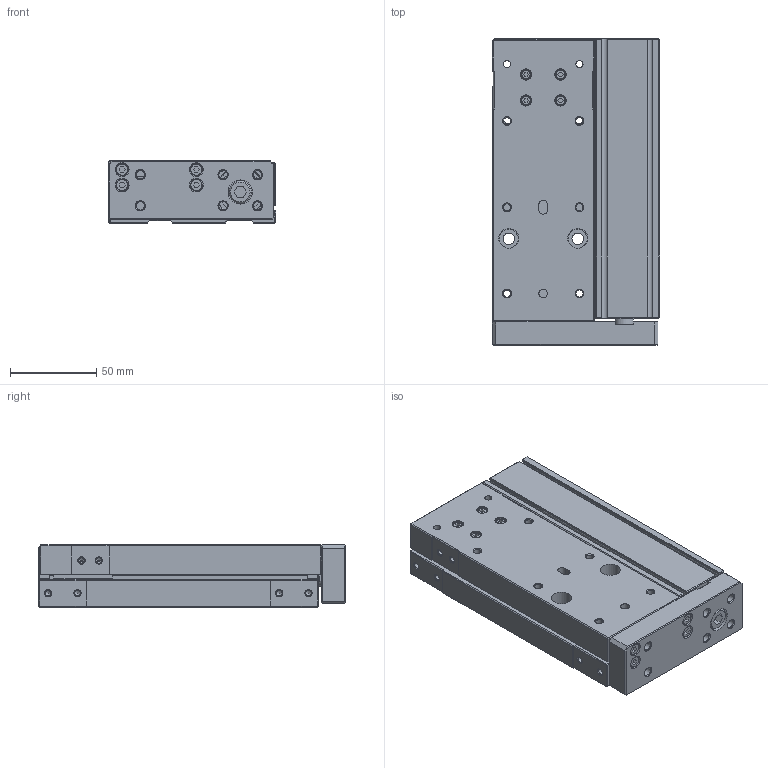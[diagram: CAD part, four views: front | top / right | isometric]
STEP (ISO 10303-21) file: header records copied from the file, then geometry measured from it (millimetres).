
FILE_DESCRIPTION((''),'2;1');
FILE_NAME('I:\3D電子目錄\氣缸\FMR(L)\FMR(L)\FMR25x100.stp','2007-10-15T16:09:12',('Administrator'),(''),'Autodesk Inventor 11','Autodesk Inventor 11','');
FILE_SCHEMA(('AUTOMOTIVE_DESIGN { 1 0 10303 214 1 1 1 1 }'));
Length unit declared in the file: millimetre
Products named in the file (1): FMR25x100
Bounding box: 97 x 177.8 x 36 mm (x, y, z)
Volume: 466056.5 mm3; surface area: 124940.1 mm2
Topology: 14 solids, 14 shells, 544 faces, 1249 edges, 787 vertices
Faces by surface type: plane 335, bspline 112, cylinder 49, cone 48
Full cylindrical faces by diameter (mm): 1.3 x2, 2 x2, 4.2 x1, 5 x2, 5.5 x4, 7 x5, 8 x1, 8.5 x1, 10 x2, 11.5 x2, 12 x3, 13 x1, 14 x1, 16 x1, 21.5 x2, 25 x3, 28 x4, 29.6 x2
Entity records: 15156 total; most frequent: CARTESIAN_POINT 3980, DIRECTION 2185, ORIENTED_EDGE 2040, EDGE_CURVE 1020, EDGE_LOOP 841, AXIS2_PLACEMENT_3D 746, VERTEX_POINT 727, VECTOR 693
